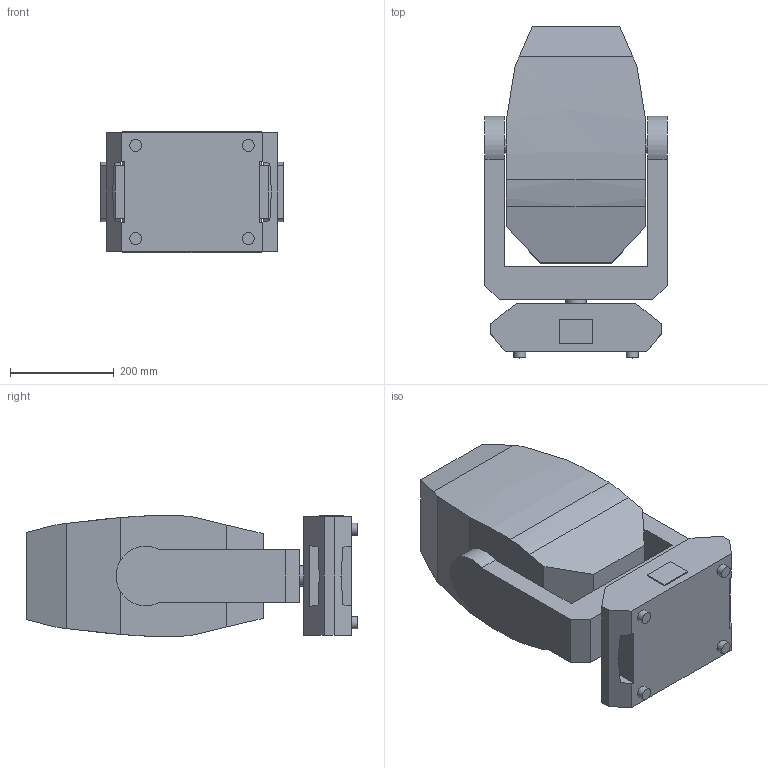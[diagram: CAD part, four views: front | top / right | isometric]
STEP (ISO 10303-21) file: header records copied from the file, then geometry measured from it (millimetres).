
FILE_DESCRIPTION(/* description */ ('Unknown'),/* implementation_level */ '2;1');
FILE_NAME(/* name */ 'MAVERICKFORCEXPROFILE_0.step',/* time_stamp */ '2025-06-20T12:08:50-04:00',/* author */ (''),/* organization */ (''),/* preprocessor_version */ 'ST-DEVELOPER v20.1',/* originating_system */ 'Autodesk Translation Framework v14.10.0.0',/* authorisation */ '');
FILE_SCHEMA (('AUTOMOTIVE_DESIGN { 1 0 10303 214 3 1 1 }'));
Length unit declared in the file: millimetre
Products named in the file (5): M-350 LED PROFILE-01; M-350_LED_PROFILE_1_ASM; bASE; aRM; hEAD
Assembly tree (4 placements, depth 2):
  M-350 LED PROFILE-01
    M-350_LED_PROFILE_1_ASM
    bASE
    aRM
    hEAD
Bounding box: 351.47 x 640.17 x 233.92 mm (x, y, z)
Volume: 33857721.9 mm3; surface area: 1034094.5 mm2
Topology: 3 solids, 3 shells, 79 faces, 196 edges, 132 vertices
Faces by surface type: plane 61, cylinder 14, bspline 4
Full cylindrical faces by diameter (mm): 23.335 x4, 25.036 x2, 26 x2, 39 x1, 158.955 x1
Entity records: 2999 total; most frequent: CARTESIAN_POINT 1004, ORIENTED_EDGE 392, DIRECTION 368, EDGE_CURVE 196, LINE 144, VECTOR 144, VERTEX_POINT 132, AXIS2_PLACEMENT_3D 112
